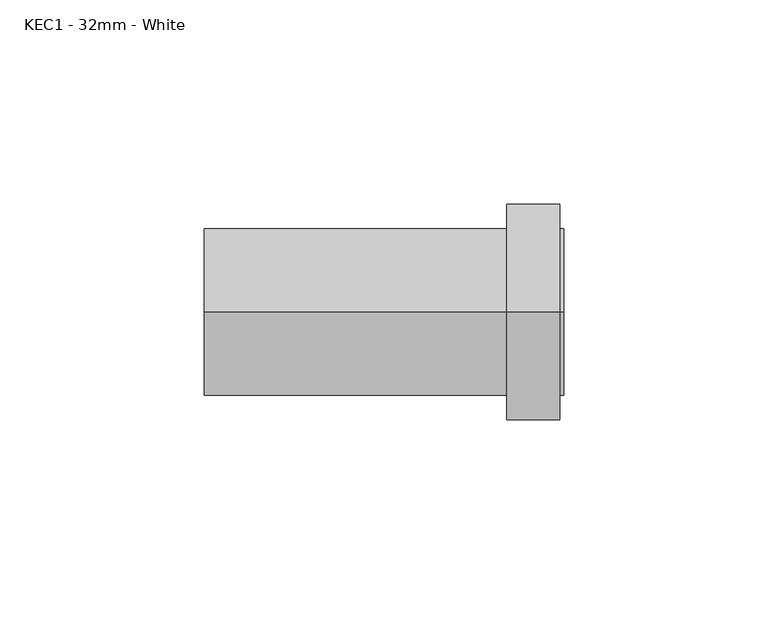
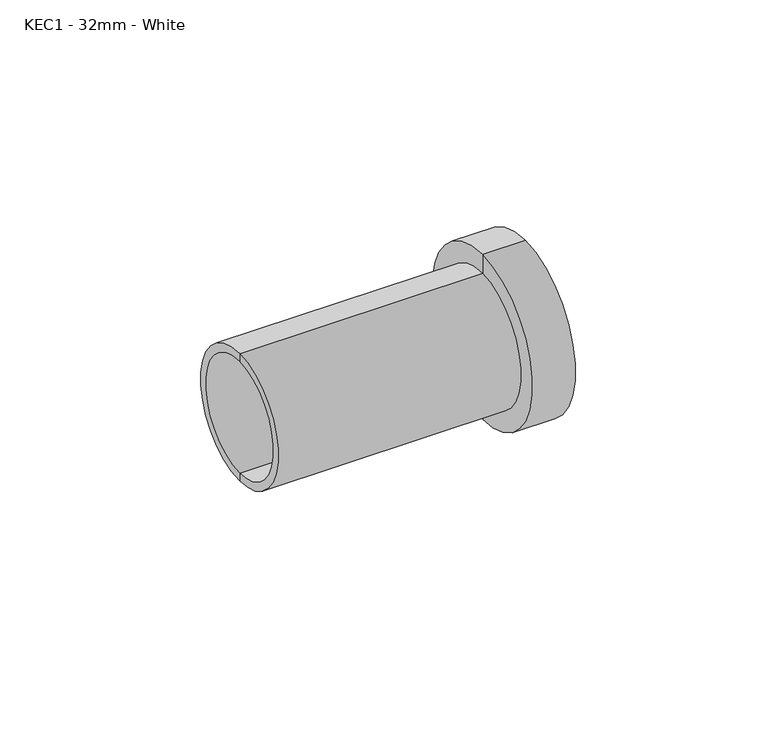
"""IFC4 building model written with IfcOpenShell, lengths in millimetres: pipe fitting geometry, MarleyPlumbingAndDrainage_PipeFitting_ExpansionCoupling : KEC1 - 32mm - White."""

from ifc_helpers import new_model, si_unit, frame, origin, place, context, project, spatial, polyline, circle_curve, source, transform, mapped, element, save
from ifc_brep_helpers import plane_surface, cylinder_surface, revolved_surface, advanced_brep


def kec1_32mm_white_43a6a038(model_context):
    return source(origin(), model_context, "Body", "AdvancedBrep", [
        advanced_brep(
        [(-39.8253818, 0.0, -18.0), (-39.8253818, 0.0, 18.0), (-39.8253818, 0.0, 20.5), (-39.8253818, 0.0, -20.5), (48.1746182, 0.0, -18.0), (48.1746182, 0.0, 18.0), (-14.8253818, 0.0, 18.0), (-14.8253818, 0.0, -18.0), (48.1746182, 0.0, -20.5), (48.1746182, 0.0, 20.5), (-19.8253818, 0.0, -18.0), (-19.8253818, 0.0, 18.0), (-19.8253818, 0.0, 0.0), (-14.8253818, 0.0, 0.0), (47.1746182, 0.0, -20.5), (47.1746182, 0.0, 20.5), (47.1746182, 0.0, -26.5), (47.1746182, 0.0, 26.5), (34.1746182, 0.0, -26.5), (34.1746182, 0.0, 26.5), (34.1746182, 0.0, -20.5), (34.1746182, 0.0, 20.5)],
        [
            (0, 1, circle_curve(frame((-39.8253818, 0.0, 0.0), z_axis=(1.0, 0.0, 0.0), x_axis=(0.0, 0.0, 1.0)), 18.0)),
            (1, 2),
            (2, 3, circle_curve(frame((-39.8253818, 0.0, 0.0), z_axis=(-1.0, 0.0, 0.0), x_axis=(0.0, 0.0, 1.0)), 20.5)),
            (3, 0),
            (1, 0, circle_curve(frame((-39.8253818, 0.0, 0.0), z_axis=(1.0, 0.0, 0.0), x_axis=(0.0, 0.0, 1.0)), 18.0)),
            (3, 2, circle_curve(frame((-39.8253818, 0.0, 0.0), z_axis=(-1.0, 0.0, 0.0), x_axis=(0.0, 0.0, 1.0)), 20.5)),
            (4, 5, circle_curve(frame((48.1746182, 0.0, 0.0), z_axis=(1.0, 0.0, 0.0), x_axis=(0.0, 0.0, 1.0)), 18.0)),
            (5, 6),
            (6, 7, circle_curve(frame((-14.8253818, 0.0, 0.0), z_axis=(-1.0, 0.0, 0.0), x_axis=(0.0, 0.0, 1.0)), 18.0)),
            (7, 4),
            (5, 4, circle_curve(frame((48.1746182, 0.0, 0.0), z_axis=(1.0, 0.0, 0.0), x_axis=(0.0, 0.0, 1.0)), 18.0)),
            (7, 6, circle_curve(frame((-14.8253818, 0.0, 0.0), z_axis=(-1.0, 0.0, 0.0), x_axis=(0.0, 0.0, 1.0)), 18.0)),
            (8, 9, circle_curve(frame((48.1746182, 0.0, 0.0), z_axis=(1.0, 0.0, 0.0), x_axis=(0.0, 0.0, 1.0)), 20.5)),
            (9, 5),
            (4, 8),
            (9, 8, circle_curve(frame((48.1746182, 0.0, 0.0), z_axis=(1.0, 0.0, 0.0), x_axis=(0.0, 0.0, 1.0)), 20.5)),
            (10, 11, circle_curve(frame((-19.8253818, 0.0, 0.0), z_axis=(1.0, 0.0, 0.0), x_axis=(0.0, 0.0, 1.0)), 18.0)),
            (11, 1),
            (0, 10),
            (11, 10, circle_curve(frame((-19.8253818, 0.0, 0.0), z_axis=(1.0, 0.0, 0.0), x_axis=(0.0, 0.0, 1.0)), 18.0)),
            (12, 11),
            (10, 12),
            (6, 13),
            (13, 7),
            (14, 15, circle_curve(frame((47.1746182, 0.0, 0.0), z_axis=(1.0, 0.0, 0.0), x_axis=(0.0, 0.0, 1.0)), 20.5)),
            (15, 9),
            (8, 14),
            (15, 14, circle_curve(frame((47.1746182, 0.0, 0.0), z_axis=(1.0, 0.0, 0.0), x_axis=(0.0, 0.0, 1.0)), 20.5)),
            (16, 17, circle_curve(frame((47.1746182, 0.0, 0.0), z_axis=(1.0, 0.0, 0.0), x_axis=(0.0, 0.0, 1.0)), 26.5)),
            (17, 15),
            (14, 16),
            (17, 16, circle_curve(frame((47.1746182, 0.0, 0.0), z_axis=(1.0, 0.0, 0.0), x_axis=(0.0, 0.0, 1.0)), 26.5)),
            (18, 19, circle_curve(frame((34.1746182, 0.0, 0.0), z_axis=(1.0, 0.0, 0.0), x_axis=(0.0, 0.0, 1.0)), 26.5)),
            (19, 17),
            (16, 18),
            (19, 18, circle_curve(frame((34.1746182, 0.0, 0.0), z_axis=(1.0, 0.0, 0.0), x_axis=(0.0, 0.0, 1.0)), 26.5)),
            (20, 21, circle_curve(frame((34.1746182, 0.0, 0.0), z_axis=(1.0, 0.0, 0.0), x_axis=(0.0, 0.0, 1.0)), 20.5)),
            (21, 19),
            (18, 20),
            (21, 20, circle_curve(frame((34.1746182, 0.0, 0.0), z_axis=(1.0, 0.0, 0.0), x_axis=(0.0, 0.0, 1.0)), 20.5)),
            (2, 21),
            (20, 3),
        ],
        [
            plane_surface(frame((-39.8253818, 0.0, 0.0), z_axis=(-1.0, 0.0, 0.0), x_axis=(0.0, 0.0, 1.0))),
            revolved_surface(polyline([(-14.82538180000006, 0.0, 18.0), (48.17461819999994, 0.0, 18.0)]), (-1177.7325039, 0.0, 0.0), (-1.0, 0.0, 0.0)),
            plane_surface(frame((48.1746182, 0.0, 0.0), z_axis=(1.0, 0.0, 0.0), x_axis=(0.0, 0.0, 1.0))),
            revolved_surface(polyline([(-39.82538180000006, 0.0, 18.0), (-19.82538180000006, 0.0, 18.0)]), (-1177.7325039, 0.0, 0.0), (-1.0, 0.0, 0.0)),
            plane_surface(frame((-19.8253818, 0.0, 0.0), z_axis=(-1.0, 0.0, 0.0), x_axis=(0.0, 0.0, 1.0))),
            plane_surface(frame((-14.8253818, 0.0, 0.0), z_axis=(1.0, 0.0, 0.0), x_axis=(0.0, 0.0, 1.0))),
            cylinder_surface(frame((-1177.7325039, 0.0, 0.0), z_axis=(-1.0, 0.0, 0.0), x_axis=(0.0, 0.0, 1.0)), 20.5),
            plane_surface(frame((47.1746182, 0.0, 0.0), z_axis=(1.0, 0.0, 0.0), x_axis=(0.0, 0.0, 1.0))),
            cylinder_surface(frame((-1177.7325039, 0.0, 0.0), z_axis=(-1.0, 0.0, 0.0), x_axis=(0.0, 0.0, 1.0)), 26.5),
            plane_surface(frame((34.1746182, 0.0, 0.0), z_axis=(-1.0, 0.0, 0.0), x_axis=(0.0, 0.0, 1.0))),
        ],
        [
            (0, [[1, 2, 3, 4]]),
            (0, [[5, -4, 6, -2]]),
            (1, [[7, 8, 9, 10]]),
            (1, [[11, -10, 12, -8]]),
            (2, [[13, 14, -7, 15]]),
            (2, [[16, -15, -11, -14]]),
            (3, [[17, 18, -1, 19]]),
            (3, [[20, -19, -5, -18]]),
            (4, [[21, -17, 22]]),
            (4, [[-22, -20, -21]]),
            (5, [[-9, 23, 24]]),
            (5, [[-12, -24, -23]]),
            (6, [[25, 26, -13, 27]]),
            (6, [[28, -27, -16, -26]]),
            (7, [[29, 30, -25, 31]]),
            (7, [[32, -31, -28, -30]]),
            (8, [[33, 34, -29, 35]]),
            (8, [[36, -35, -32, -34]]),
            (9, [[37, 38, -33, 39]]),
            (9, [[40, -39, -36, -38]]),
            (6, [[-3, 41, -37, 42]]),
            (6, [[-6, -42, -40, -41]]),
        ],
    ),
    ])


if __name__ == "__main__":
    model = new_model("IFC4")
    model_context = context("Model", 3, world=origin())
    ifc_project = project(units=[si_unit("LENGTHUNIT", "METRE", prefix="MILLI")], contexts=[model_context])
    site = spatial("IfcSite", under=ifc_project)
    building = spatial("IfcBuilding", under=site)
    placement = place(None, origin())
    kec1_32mm_white_shape = kec1_32mm_white_43a6a038(model_context)
    element("IfcPipeFitting", 1, ObjectType="MarleyPlumbingAndDrainage_PipeFitting_ExpansionCoupling : KEC1 - 32mm - White", at=placement, inside=building, context=model_context, shape_type="MappedRepresentation", body=[
        mapped(kec1_32mm_white_shape, transform((0.0, 0.0, 0.0), x_axis=(1.0, 0.0, 0.0), y_axis=(0.0, 1.0, 0.0), z_axis=(0.0, 0.0, 1.0))),
    ])
    save(model, "model.ifc")
